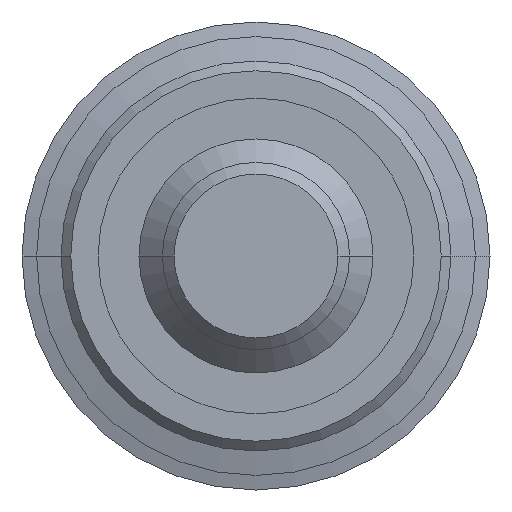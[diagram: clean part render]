
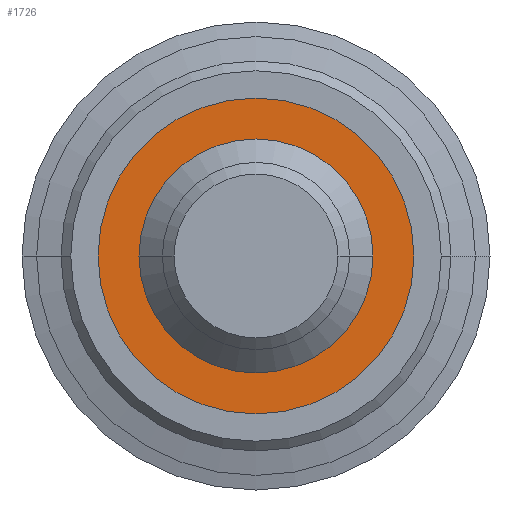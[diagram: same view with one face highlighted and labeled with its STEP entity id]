
A CAD part, front view. The second image highlights one B-rep face of the part: STEP entity #1726.
In plain terms, the highlighted planar face has unit normal (0, -1, 0).
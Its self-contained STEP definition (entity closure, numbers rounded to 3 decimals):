
#565=CARTESIAN_POINT('',(0.,-2.3,0.));
#566=DIRECTION('',(0.,1.,0.));
#567=DIRECTION('',(1.,0.,0.));
#568=AXIS2_PLACEMENT_3D('',#565,#566,#567);
#570=CARTESIAN_POINT('',(0.,-2.3,0.));
#571=DIRECTION('',(0.,1.,0.));
#572=DIRECTION('',(-1.,0.,0.));
#573=AXIS2_PLACEMENT_3D('',#570,#571,#572);
#575=CARTESIAN_POINT('',(0.,-2.3,0.));
#576=DIRECTION('',(0.,-1.,0.));
#577=DIRECTION('',(1.,0.,0.));
#578=AXIS2_PLACEMENT_3D('',#575,#576,#577);
#580=CARTESIAN_POINT('',(0.,-2.3,0.));
#581=DIRECTION('',(0.,-1.,0.));
#582=DIRECTION('',(-1.,0.,0.));
#583=AXIS2_PLACEMENT_3D('',#580,#581,#582);
#803=CARTESIAN_POINT('',(8.1,-2.3,0.));
#804=VERTEX_POINT('',#803);
#805=CARTESIAN_POINT('',(-8.1,-2.3,0.));
#806=VERTEX_POINT('',#805);
#807=CARTESIAN_POINT('',(6.,-2.3,0.));
#808=CARTESIAN_POINT('',(-6.,-2.3,0.));
#809=VERTEX_POINT('',#807);
#810=VERTEX_POINT('',#808);
#1711=CARTESIAN_POINT('',(0.,-2.3,0.));
#1712=DIRECTION('',(0.,-1.,0.));
#1713=DIRECTION('',(-1.,0.,0.));
#1714=AXIS2_PLACEMENT_3D('',#1711,#1712,#1713);
#1715=PLANE('',#1714);
#1716=ORIENTED_EDGE('',*,*,#1706,.T.);
#1717=ORIENTED_EDGE('',*,*,#1690,.T.);
#1718=EDGE_LOOP('',(#1716,#1717));
#1719=FACE_OUTER_BOUND('',#1718,.F.);
#1721=ORIENTED_EDGE('',*,*,#1720,.T.);
#1723=ORIENTED_EDGE('',*,*,#1722,.T.);
#1724=EDGE_LOOP('',(#1721,#1723));
#1725=FACE_BOUND('',#1724,.F.);
#569=CIRCLE('',#568,8.1);
#574=CIRCLE('',#573,8.1);
#579=CIRCLE('',#578,6.);
#584=CIRCLE('',#583,6.);
#1690=EDGE_CURVE('',#806,#804,#574,.T.);
#1706=EDGE_CURVE('',#804,#806,#569,.T.);
#1720=EDGE_CURVE('',#809,#810,#579,.T.);
#1722=EDGE_CURVE('',#810,#809,#584,.T.);
#1726=ADVANCED_FACE('',(#1719,#1725),#1715,.T.);
